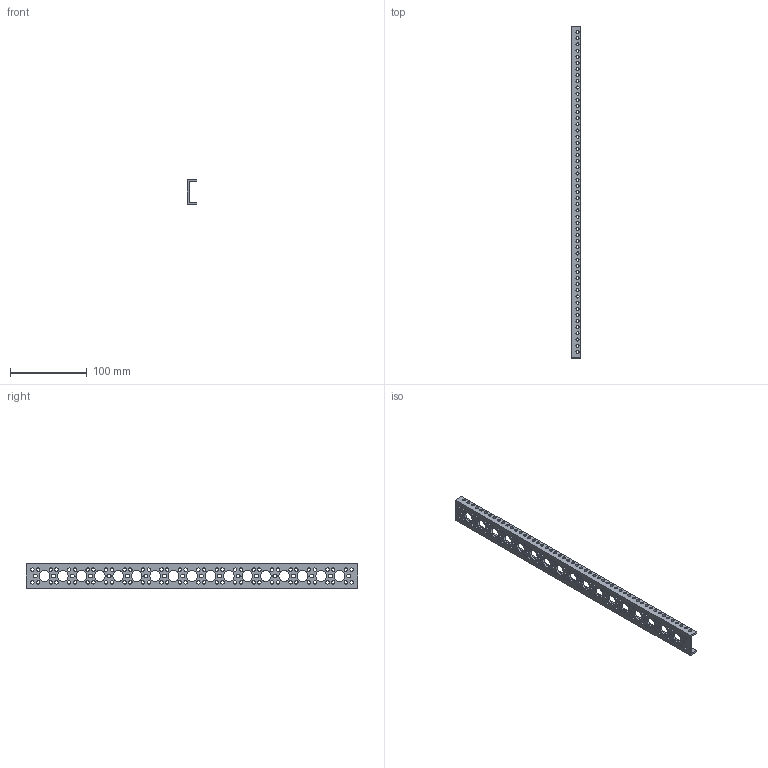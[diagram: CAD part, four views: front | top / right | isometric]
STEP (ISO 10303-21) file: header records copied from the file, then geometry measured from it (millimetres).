
FILE_DESCRIPTION (( 'STEP AP203' ), '1' );
FILE_NAME ('1143-0017-0432.STEP', '2022-04-26T19:02:25', ( '' ), ( '' ), 'SwSTEP 2.0', 'SolidWorks 2016', '' );
FILE_SCHEMA (( 'CONFIG_CONTROL_DESIGN' ));
Length unit declared in the file: millimetre
Products named in the file (1): 1143-0017-0432
Bounding box: 12 x 432 x 32 mm (x, y, z)
Volume: 41474.8 mm3; surface area: 44069.1 mm2
Topology: 1 solids, 1 shells, 688 faces, 2058 edges, 1372 vertices
Faces by surface type: cylinder 498, plane 190
Entity records: 24587 total; most frequent: DIRECTION 4432, CARTESIAN_POINT 4119, ORIENTED_EDGE 4116, EDGE_CURVE 2058, AXIS2_PLACEMENT_3D 1685, VERTEX_POINT 1372, EDGE_LOOP 1114, LINE 1062
